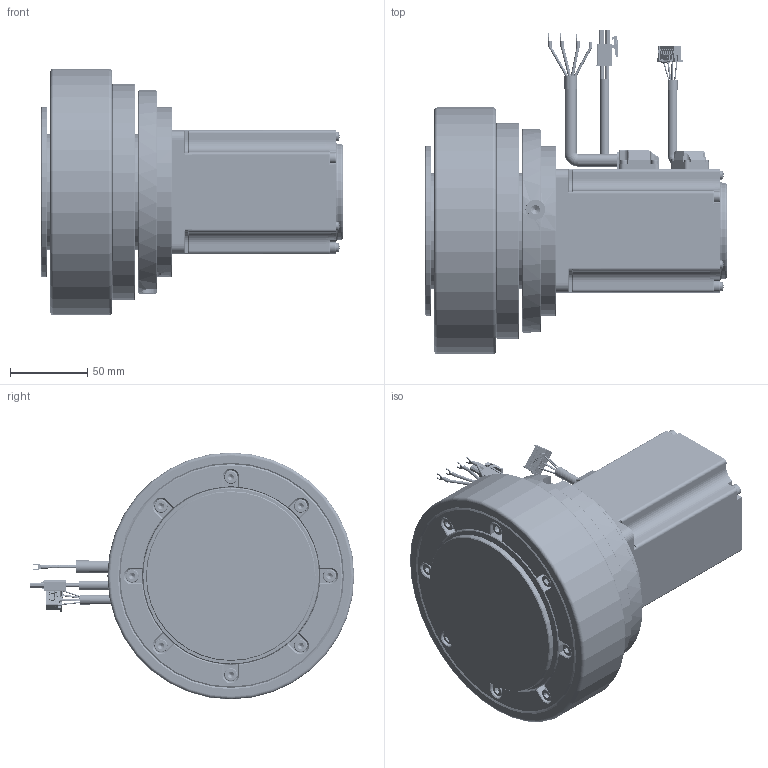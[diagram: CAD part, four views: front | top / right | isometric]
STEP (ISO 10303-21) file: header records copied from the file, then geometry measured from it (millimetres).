
FILE_DESCRIPTION((''),'2;1');
FILE_NAME('MSD160--075-30GSL-B_ASM','2026-05-29T14:00:18',('MS28159'),(''),'CREO PARAMETRIC BY PTC INC, 2018100','CREO PARAMETRIC BY PTC INC, 2018100','');
FILE_SCHEMA(('CONFIG_CONTROL_DESIGN'));
Products named in the file (51): SINGLE_COIL_LOCK_WASHERS_LIGH_2; HEXAGON_SOCKET_HEAD_CAP_S-19899; AEQ-115N-L2-19-1_X2_FF08_X0_1_1; HEX_SOCKET_SET_SCREWS_WITH_FL_1; HEXAGON_SOCKET_HEAD_CAP_SC-2261; 090-19_X2_8F7495017D275957_X0_1; AEQ-115-H40-W160_1; AEQ-115N-032-10-19-1-H40-W160_1_ASM; AEQ-115N-032-10-19-1-H40-W160_A_ASM; HEXAGONSOCKETHEADC0038_1; _1_C-172165-1-H-3D0001_1_1; HEXAGONSOCKETHEADC0039_1; _1-SOLID10001_1_1; _1_-1-SOLID10001_1_1; HEXAGONSOCKETHEADC0040_1; CROSSRECESSEDSMALL0009_1_1; _1_5016461600-1-SO0001_1_1; CROSSRECESSEDSMALL0010_1_1; _1_AGV-2-SOLID10001_1_1; HEXAGONSOCKETHEADC0041_1; 4219122001590A0-1-0002_1; 2-1-SOLID100_1; CROSSRECESSEDCOUNT0004_1_1; CROSSRECESSEDPANHE0005_1; _1_--1-SOLID10001_1_1; _1_-1-SOLID10002_1_1; HEXAGONSOCKETHEADC0042_1; _1_AGV-1-SOLID10001_1_1; _1_AGV-3-SOLID10001_1_1; HEXAGONSOCKETHEADC0043_1; 3698154002184-1-SOLID1_1; _1-SOLID10002_1; HEXAGONSOCKETHEADC0044_1; HEXAGONSOCKETHEADC0016_1_1; CROSSRECESSEDPANHE0006_1; CROSSRECESSEDPANHE0007_1; CROSSRECESSEDPANHE0008_1; CROSSRECESSEDSMALL0013_1_1; _1_AGV-4-SOLID10001_1_1; _1_--1-SOLID10002_1_1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
Assembly tree (65 placements, depth 4):
  MSD160--075-30GSL-B_ASM
    AEQ-115N-032-10-19-1-H40-W160_A_ASM
      AEQ-115N-032-10-19-1-H40-W160_1_ASM
        SINGLE_COIL_LOCK_WASHERS_LIGH_2  x8
        HEXAGON_SOCKET_HEAD_CAP_S-19899  x8
        AEQ-115N-L2-19-1_X2_FF08_X0_1_1
        HEX_SOCKET_SET_SCREWS_WITH_FL_1  x2
        HEXAGON_SOCKET_HEAD_CAP_SC-2261
        090-19_X2_8F7495017D275957_X0_1
        AEQ-115-H40-W160_1
    SM0803GSL-KCY-BNN-10_ASM
      4611170005892_ASM_1_ASM
        HEXAGONSOCKETHEADC0038_1
        _1_C-172165-1-H-3D0001_1_1
        HEXAGONSOCKETHEADC0039_1
        _1-SOLID10001_1_1
        _1_-1-SOLID10001_1_1
        HEXAGONSOCKETHEADC0040_1
        CROSSRECESSEDSMALL0009_1_1
        _1_5016461600-1-SO0001_1_1
        CROSSRECESSEDSMALL0010_1_1
        _1_AGV-2-SOLID10001_1_1
        HEXAGONSOCKETHEADC0041_1
        4219122001590A0-1-0002_1
        2-1-SOLID100_1
        CROSSRECESSEDCOUNT0004_1_1
        CROSSRECESSEDPANHE0005_1
        _1_--1-SOLID10001_1_1
        _1_-1-SOLID10002_1_1
        HEXAGONSOCKETHEADC0042_1
        _1_AGV-1-SOLID10001_1_1
        _1_AGV-3-SOLID10001_1_1
        HEXAGONSOCKETHEADC0043_1
        3698154002184-1-SOLID1_1
        _1-SOLID10002_1
        HEXAGONSOCKETHEADC0044_1
        HEXAGONSOCKETHEADC0016_1_1
        CROSSRECESSEDPANHE0006_1
        CROSSRECESSEDPANHE0007_1
        CROSSRECESSEDPANHE0008_1
        CROSSRECESSEDSMALL0013_1_1
        _1_AGV-4-SOLID10001_1_1
        _1_--1-SOLID10002_1_1
        80750W1635-1_429440001_1
        3627410000860-1-SOLID1_1
        CROSSRECESSEDSMALL0014_1_1
        _220001_1_1
        _210001_1_1
        _230001_1
        _240001_1
        _30001_1
Bounding box: 195.7 x 210.3 x 160 mm (x, y, z)
Volume: 1488889 mm3; surface area: 302756.6 mm2
Topology: 61 solids, 61 shells, 4948 faces, 11669 edges, 6808 vertices
Faces by surface type: cone 1619, cylinder 1531, plane 1385, torus 277, sphere 80, bspline 38, extrusion 18
Entity records: 98596 total; most frequent: CARTESIAN_POINT 25088, DIRECTION 15895, ORIENTED_EDGE 14858, EDGE_CURVE 7429, AXIS2_PLACEMENT_3D 5954, VERTEX_POINT 4686, VECTOR 3987, LINE 3969
